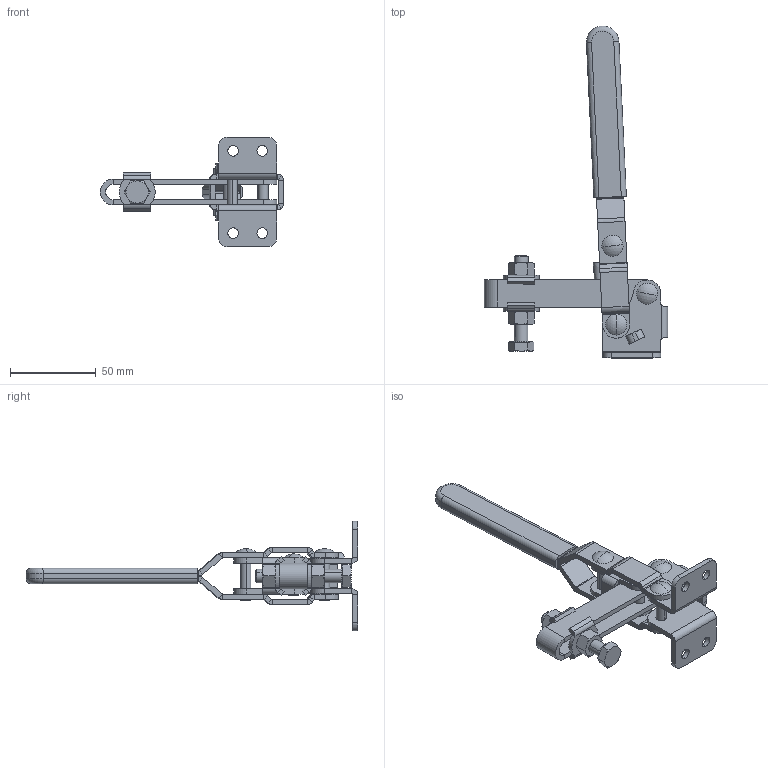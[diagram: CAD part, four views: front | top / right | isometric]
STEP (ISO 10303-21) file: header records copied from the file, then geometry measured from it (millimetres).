
FILE_DESCRIPTION (( 'STEP AP214' ), '1' );
FILE_NAME ('ISK-41B小0.STEP', '2015-06-29T10:06:03', ( '' ), ( '' ), 'SwSTEP 2.0', 'SolidWorks 2015', '' );
FILE_SCHEMA (( 'AUTOMOTIVE_DESIGN' ));
Length unit declared in the file: millimetre
Products named in the file (11): oval head semi-tubular rivets gb_GB_CONNECTING_PIECE_RIVET_OHSR 6X28; oval head semi-tubular rivets gb_GB_CONNECTING_PIECE_RIVET_OHSR 6X22; Grip; hexagon nut style 2_ab_jis_JIS B 1181 Hexagon nut - style 2 A M8 - D --N; continuous thread hexagon head bolt_c_jis_JIS B 1180 Continuous thread hexagon head bolt C M8 x 50 --WN; Washer_D8-15; Handle; Link; Arm; Base; ISK-41B小0
Assembly tree (15 placements, depth 2):
  ISK-41B小0
    Base
    Arm
    Link
    Handle  x2
    Washer_D8-15  x2
    continuous thread hexagon head bolt_c_jis_JIS B 1180 Continuous thread hexagon head bolt C M8 x 50 --WN
    hexagon nut style 2_ab_jis_JIS B 1181 Hexagon nut - style 2 A M8 - D --N  x2
    Grip
    oval head semi-tubular rivets gb_GB_CONNECTING_PIECE_RIVET_OHSR 6X22  x2
    oval head semi-tubular rivets gb_GB_CONNECTING_PIECE_RIVET_OHSR 6X28  x2
Bounding box: 107.02 x 193.8 x 64 mm (x, y, z)
Volume: 58752.4 mm3; surface area: 52356.6 mm2
Topology: 15 solids, 15 shells, 473 faces, 1052 edges, 612 vertices
Faces by surface type: plane 239, cylinder 162, cone 48, torus 12, sphere 8, bspline 4
Entity records: 10072 total; most frequent: CARTESIAN_POINT 1929, DIRECTION 1698, ORIENTED_EDGE 1516, EDGE_CURVE 758, AXIS2_PLACEMENT_3D 643, VERTEX_POINT 450, VECTOR 412, LINE 412
